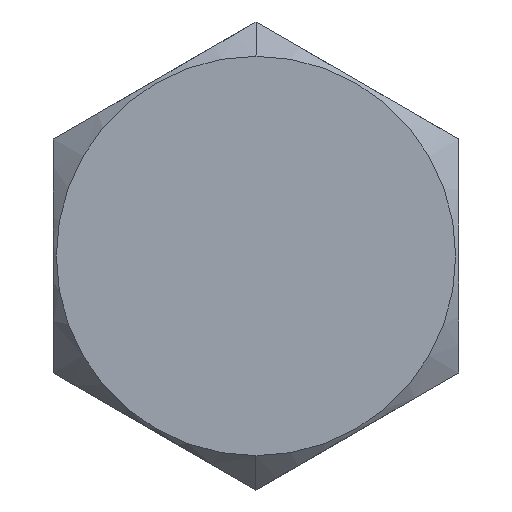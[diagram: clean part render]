
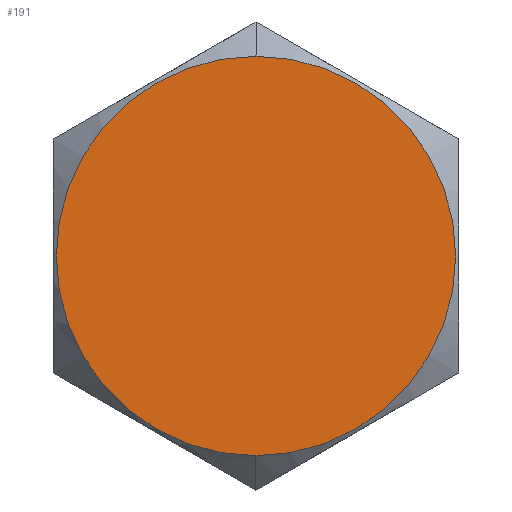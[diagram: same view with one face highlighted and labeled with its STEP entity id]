
A CAD part, left-side view. The second image highlights one B-rep face of the part: STEP entity #191.
In plain terms, the highlighted planar face has unit normal (-1, 0, 0).
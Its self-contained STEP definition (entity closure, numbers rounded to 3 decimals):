
#17 = FACE_OUTER_BOUND ( 'NONE', #756, .T. ) ;
#57 = CARTESIAN_POINT ( 'NONE',  ( 0., 0., -6.406 ) ) ;
#98 = DIRECTION ( 'NONE',  ( 0., 0., -1. ) ) ;
#165 = ORIENTED_EDGE ( 'NONE', *, *, #629, .F. ) ;
#191 = ADVANCED_FACE ( 'NONE', ( #17 ), #522, .F. ) ;
#205 = DIRECTION ( 'NONE',  ( 0., 0., -1. ) ) ;
#262 = VERTEX_POINT ( 'NONE', #479 ) ;
#322 = EDGE_CURVE ( 'NONE', #398, #262, #553, .T. ) ;
#329 = DIRECTION ( 'NONE',  ( 0., 0., -1. ) ) ;
#398 = VERTEX_POINT ( 'NONE', #57 ) ;
#408 = CARTESIAN_POINT ( 'NONE',  ( 0., 0., 0. ) ) ;
#458 = DIRECTION ( 'NONE',  ( 1., 0., 0. ) ) ;
#467 = CIRCLE ( 'NONE', #627, 6.406 ) ;
#479 = CARTESIAN_POINT ( 'NONE',  ( 0., 0., 6.406 ) ) ;
#522 = PLANE ( 'NONE',  #568 ) ;
#525 = CARTESIAN_POINT ( 'NONE',  ( 0., 0., 0. ) ) ;
#553 = CIRCLE ( 'NONE', #633, 6.406 ) ;
#568 = AXIS2_PLACEMENT_3D ( 'NONE', #525, #770, #205 ) ;
#627 = AXIS2_PLACEMENT_3D ( 'NONE', #773, #458, #329 ) ;
#629 = EDGE_CURVE ( 'NONE', #262, #398, #467, .T. ) ;
#633 = AXIS2_PLACEMENT_3D ( 'NONE', #408, #661, #98 ) ;
#661 = DIRECTION ( 'NONE',  ( 1., 0., 0. ) ) ;
#675 = ORIENTED_EDGE ( 'NONE', *, *, #322, .F. ) ;
#756 = EDGE_LOOP ( 'NONE', ( #675, #165 ) ) ;
#770 = DIRECTION ( 'NONE',  ( 1., 0., 0. ) ) ;
#773 = CARTESIAN_POINT ( 'NONE',  ( 0., 0., 0. ) ) ;
